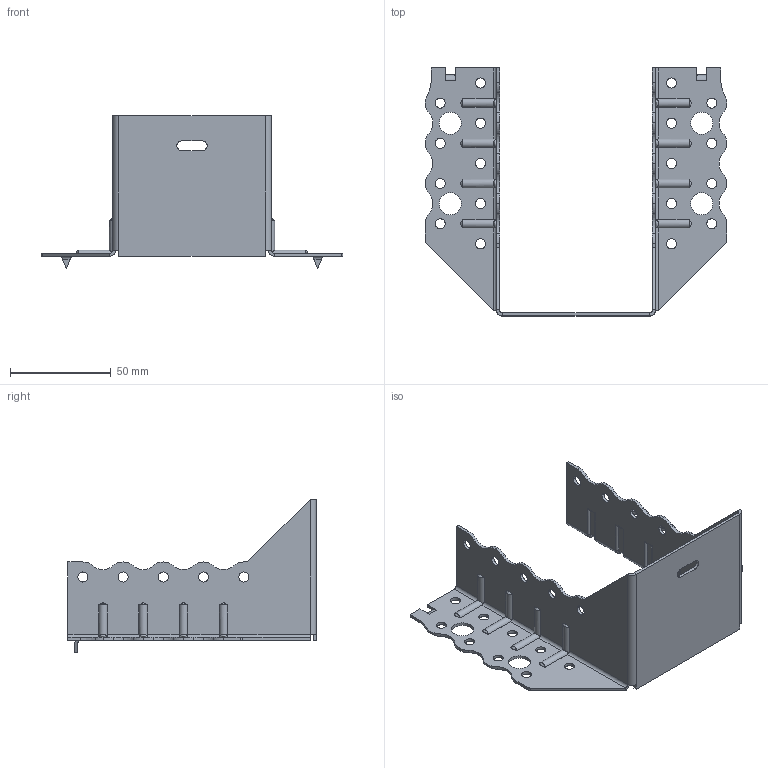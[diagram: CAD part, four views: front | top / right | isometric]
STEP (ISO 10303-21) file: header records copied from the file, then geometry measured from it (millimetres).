
FILE_DESCRIPTION (( 'STEP AP203' ), '1' );
FILE_NAME ('30613TOP.STEP', '2021-04-07T13:23:45', ( '' ), ( '' ), 'SwSTEP 2.0', 'SolidWorks 2013', '' );
FILE_SCHEMA (( 'CONFIG_CONTROL_DESIGN' ));
Length unit declared in the file: millimetre
Products named in the file (1): 30613TOP
Bounding box: 150 x 123.5 x 76 mm (x, y, z)
Volume: 32337.4 mm3; surface area: 46060.2 mm2
Topology: 1 solids, 1 shells, 359 faces, 963 edges, 606 vertices
Faces by surface type: cylinder 221, plane 106, torus 16, bspline 16
Entity records: 13198 total; most frequent: CARTESIAN_POINT 4091, ORIENTED_EDGE 1926, DIRECTION 1865, EDGE_CURVE 963, AXIS2_PLACEMENT_3D 678, VERTEX_POINT 606, LINE 509, VECTOR 509
